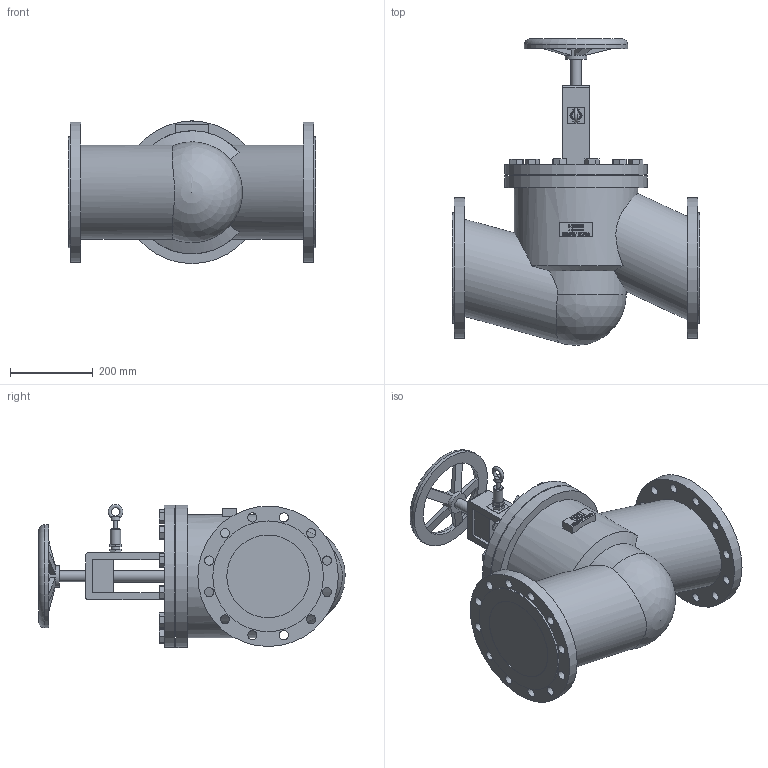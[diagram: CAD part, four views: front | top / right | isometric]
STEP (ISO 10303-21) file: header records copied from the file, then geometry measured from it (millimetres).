
FILE_DESCRIPTION(/* description */ (''),/* implementation_level */ '2;1');
FILE_NAME(/* name */ '100-247M-DN200-PN16.stp',/* time_stamp */ '2024-07-09T08:21:37+02:00',/* author */ ('roger.thijssen'),/* organization */ (''),/* preprocessor_version */ 'ST-DEVELOPER v20',/* originating_system */ 'Autodesk Inventor 2024',/* authorisation */ '');
FILE_SCHEMA (('AUTOMOTIVE_DESIGN { 1 0 10303 214 3 1 1 }'));
Length unit declared in the file: millimetre
Products named in the file (1): 100-247M-DN200-PN16
Bounding box: 600 x 742.5 x 346.49 mm (x, y, z)
Volume: 45041661.7 mm3; surface area: 1319641.5 mm2
Topology: 1 solids, 1 shells, 434 faces, 1149 edges, 765 vertices
Faces by surface type: plane 291, bspline 76, cylinder 60, cone 4, torus 2, sphere 1
Full cylindrical faces by diameter (mm): 9 x1, 21 x1, 22 x24, 25 x1, 26 x1, 28 x1, 52 x1, 190 x1, 200 x2, 227 x2, 250 x1, 268 x2, 270 x1, 298 x1, 340 x2, 345 x2
Entity records: 14943 total; most frequent: CARTESIAN_POINT 3931, ORIENTED_EDGE 2296, DIRECTION 1832, EDGE_CURVE 1148, LINE 806, VECTOR 806, VERTEX_POINT 765, EDGE_LOOP 547
